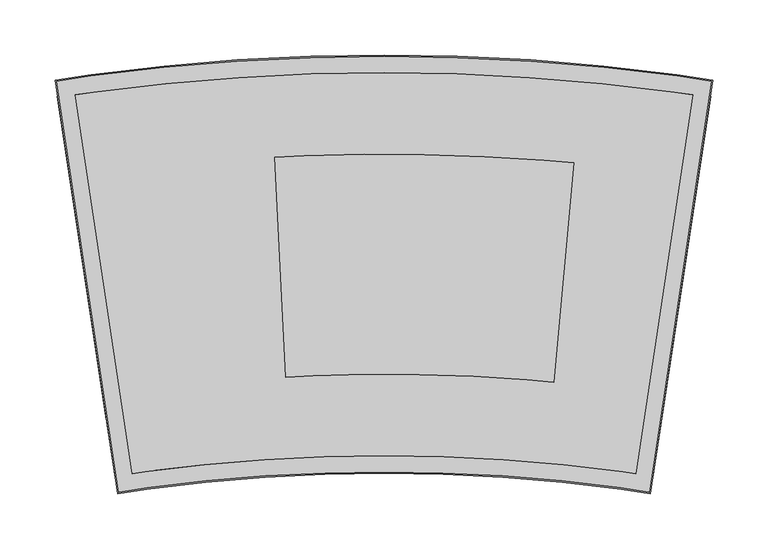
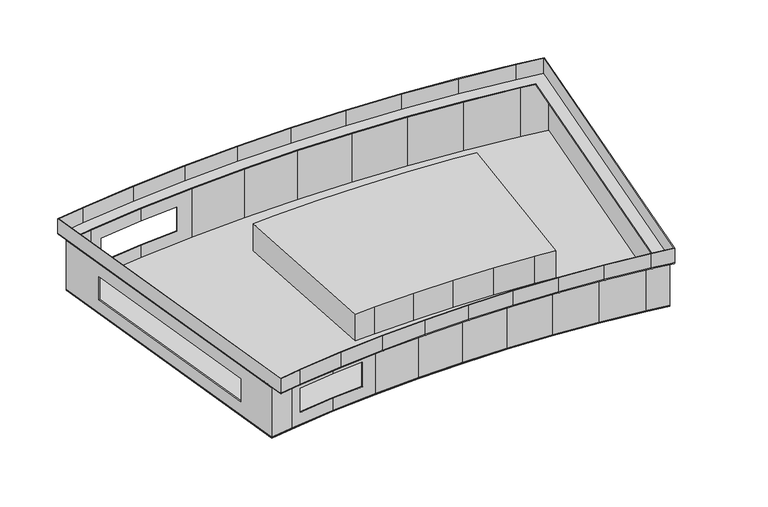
"""IFC4 building model written with IfcOpenShell, lengths in millimetres: proxy geometry, Techno_Конвектор встраиваемый_Usual_KVZ_R-380_85 : KVZ R 380-85_Л."""

from ifc_helpers import new_model, si_unit, frame, origin, place, context, project, spatial, polyline, ellipse_curve, outline, extrude, faceted_brep, source, transform, mapped, element, save
from ifc_brep_helpers import plane_surface, cylinder_surface, advanced_brep


def mechanical_equipment_48334f07(model_context):
    return source(origin(), model_context, "Body", "SolidModel", [
        extrude(outline(polyline([(672.2655921, 92.2156991), (654.2273102, -106.9691909), (629.9730853, -104.7727163), (581.3592075, -101.762964), (532.6793352, -100.1388498), (483.972955, -99.9016912), (435.2795752, -101.0516806), (410.9591343, -102.3197828), (400.5449979, 97.4088976), (427.7099348, 98.8253159), (482.0984468, 100.1098069), (536.5014797, 99.8449105), (590.8749043, 98.0308414), (645.1746157, 94.6690713), (672.2655921, 92.2156991)])), frame((0.0, 0.0, -68.5), z_axis=(0.0, 0.0, 1.0), x_axis=(1.0, 0.0, 0.0)), (0.0, 0.0, 1.0), 35.0),
        extrude(outline(polyline([(796.6645806, 152.9083439), (744.301459, -193.5570418), (717.3582482, -189.4849738), (663.2303399, -183.1412432), (608.9210813, -178.6049662), (554.4908105, -175.8811824), (500.0, -174.9729182), (445.5091895, -175.8811824), (391.0789187, -178.6049662), (336.7696601, -183.1412432), (282.6417518, -189.4849738), (255.698541, -193.5570418), (203.3354194, 152.9083439), (236.053588, 157.8532115), (301.7831718, 165.5566454), (367.7329761, 171.0652197), (433.8297302, 174.3728142), (500.0, 175.4757541), (566.1702698, 174.3728142), (632.2670239, 171.0652197), (698.2168282, 165.5566454), (763.946412, 157.8532115), (796.6645806, 152.9083439)])), frame((0.0, 0.0, -85.0), z_axis=(0.0, 0.0, 1.0), x_axis=(1.0, 0.0, 0.0)), (0.0, 0.0, 1.0), 1.2),
        faceted_brep([(203.3354194, 152.9083439, -20.5), (203.3354194, 152.9083439, -85.0), (255.698541, -193.5570418, -85.0), (255.698541, -193.5570418, -20.5), (211.5844043, 98.3281804, -37.0), (247.7484324, -140.9544204, -37.0), (247.7484324, -140.9544204, -67.0), (211.5844043, 98.3281804, -67.0), (744.301459, -193.5570418, -20.5), (744.301459, -193.5570418, -85.0), (796.6645806, 152.9083439, -85.0), (796.6645806, 152.9083439, -20.5), (204.7012705, 151.9011444, -85.0), (204.7012705, 151.9011444, -20.5), (256.7057406, -192.1911907, -20.5), (256.7057406, -192.1911907, -85.0), (248.9349577, -140.7750947, -37.0), (212.7709296, 98.5075062, -37.0), (212.7709296, 98.5075062, -67.0), (248.9349577, -140.7750947, -67.0), (743.2942594, -192.1911907, -85.0), (743.2942594, -192.1911907, -20.5), (795.2987295, 151.9011444, -20.5), (795.2987295, 151.9011444, -85.0), (282.6417518, -189.4849738, -85.0), (282.6417518, -189.4849738, -20.5), (282.462426, -188.2984485, -20.5), (282.462426, -188.2984485, -85.0), (336.7696601, -183.1412432, -85.0), (336.7696601, -183.1412432, -68.0), (292.6663909, -188.3100972, -68.0), (292.6663909, -188.3100972, -36.0), (336.7696601, -183.1412432, -36.0), (336.7696601, -183.1412432, -20.5), (336.6299775, -181.9494006, -20.5), (336.6299775, -181.9494006, -36.0), (292.5142008, -187.1197205, -36.0), (292.5142008, -187.1197205, -68.0), (336.6299775, -181.9494006, -68.0), (336.6299775, -181.9494006, -85.0), (391.0789187, -178.6049662, -85.0), (391.0789187, -178.6049662, -20.5), (374.9864322, -179.9491196, -36.0), (374.9864322, -179.9491196, -68.0), (390.9790344, -177.4091304, -20.5), (390.9790344, -177.4091304, -85.0), (374.8946678, -178.7526056, -68.0), (374.8946678, -178.7526056, -36.0), (445.5091895, -175.8811824, -85.0), (445.5091895, -175.8811824, -20.5), (445.4492145, -174.6826821, -20.5), (445.4492145, -174.6826821, -85.0), (500.0, -174.9729182, -85.0), (500.0, -174.9729182, -20.5), (499.9800009, -173.7730848, -20.5), (499.9800009, -173.7730848, -85.0), (554.4908105, -175.8811824, -85.0), (554.4908105, -175.8811824, -20.5), (554.5108096, -174.6813491, -20.5), (554.5108096, -174.6813491, -85.0), (608.9210813, -178.6049662, -85.0), (608.9210813, -178.6049662, -20.5), (608.9810563, -177.4064659, -20.5), (608.9810563, -177.4064659, -85.0), (663.2303399, -183.1412432, -85.0), (663.2303399, -183.1412432, -20.5), (663.3302242, -181.9454075, -20.5), (663.3302242, -181.9454075, -85.0), (717.3582482, -189.4849738, -85.0), (717.3582482, -189.4849738, -20.5), (717.4979308, -188.2931312, -20.5), (717.4979308, -188.2931312, -85.0), (763.946412, 157.8532115, -85.0), (763.946412, 157.8532115, -20.5), (763.7670862, 156.6666862, -20.5), (763.7670862, 156.6666862, -85.0), (698.2168282, 165.5566454, -85.0), (698.2168282, 165.5566454, -20.5), (698.0771456, 164.3648028, -20.5), (698.0771456, 164.3648028, -85.0), (632.2670239, 171.0652197, -85.0), (632.2670239, 171.0652197, -20.5), (632.1671396, 169.8693839, -20.5), (632.1671396, 169.8693839, -85.0), (566.1702698, 174.3728142, -85.0), (566.1702698, 174.3728142, -20.5), (566.1102948, 173.1743139, -20.5), (566.1102948, 173.1743139, -85.0), (500.0, 175.4757541, -85.0), (500.0, 175.4757541, -20.5), (499.9800009, 174.2759208, -20.5), (499.9800009, 174.2759208, -85.0), (433.8297302, 174.3728142, -85.0), (433.8297302, 174.3728142, -20.5), (433.8497293, 173.1729808, -20.5), (433.8497293, 173.1729808, -85.0), (367.7329761, 171.0652197, -85.0), (367.7329761, 171.0652197, -20.5), (367.7929511, 169.8667194, -20.5), (367.7929511, 169.8667194, -85.0), (301.7831718, 165.5566454, -85.0), (301.7831718, 165.5566454, -68.0), (348.1912559, 169.4329629, -68.0), (348.1912559, 169.4329629, -36.0), (301.7831718, 165.5566454, -36.0), (301.7831718, 165.5566454, -20.5), (301.8830561, 164.3608097, -20.5), (301.8830561, 164.3608097, -36.0), (348.2830202, 168.2364489, -36.0), (348.2830202, 168.2364489, -68.0), (301.8830561, 164.3608097, -68.0), (301.8830561, 164.3608097, -85.0), (236.053588, 157.8532115, -85.0), (236.053588, 157.8532115, -20.5), (248.2268896, 159.2799088, -36.0), (248.2268896, 159.2799088, -68.0), (236.1932706, 156.6613689, -20.5), (236.1932706, 156.6613689, -85.0), (248.3790797, 158.0895321, -68.0), (248.3790797, 158.0895321, -36.0)], [[[0, 1, 2, 3], [4, 5, 6, 7]], [[8, 9, 10, 11]], [[12, 13, 14, 15], [16, 17, 18, 19]], [[20, 21, 22, 23]], [[3, 2, 24, 25]], [[15, 14, 26, 27]], [[25, 24, 28, 29, 30, 31, 32, 33]], [[27, 26, 34, 35, 36, 37, 38, 39]], [[28, 40, 41, 33, 32, 42, 43, 29]], [[34, 44, 45, 39, 38, 46, 47, 35]], [[41, 40, 48, 49]], [[45, 44, 50, 51]], [[49, 48, 52, 53]], [[51, 50, 54, 55]], [[53, 52, 56, 57]], [[55, 54, 58, 59]], [[57, 56, 60, 61]], [[59, 58, 62, 63]], [[61, 60, 64, 65]], [[63, 62, 66, 67]], [[65, 64, 68, 69]], [[67, 66, 70, 71]], [[9, 8, 69, 68]], [[21, 20, 71, 70]], [[11, 10, 72, 73]], [[23, 22, 74, 75]], [[73, 72, 76, 77]], [[75, 74, 78, 79]], [[77, 76, 80, 81]], [[79, 78, 82, 83]], [[81, 80, 84, 85]], [[83, 82, 86, 87]], [[85, 84, 88, 89]], [[87, 86, 90, 91]], [[89, 88, 92, 93]], [[91, 90, 94, 95]], [[93, 92, 96, 97]], [[95, 94, 98, 99]], [[97, 96, 100, 101, 102, 103, 104, 105]], [[99, 98, 106, 107, 108, 109, 110, 111]], [[100, 112, 113, 105, 104, 114, 115, 101]], [[106, 116, 117, 111, 110, 118, 119, 107]], [[1, 0, 113, 112]], [[13, 12, 117, 116]], [[0, 3, 25, 33, 41, 49, 53, 57, 61, 65, 69, 8, 11, 73, 77, 81, 85, 89, 93, 97, 105, 113], [14, 13, 116, 106, 98, 94, 90, 86, 82, 78, 74, 22, 21, 70, 66, 62, 58, 54, 50, 44, 34, 26]], [[2, 1, 112, 100, 96, 92, 88, 84, 80, 76, 72, 10, 9, 68, 64, 60, 56, 52, 48, 40, 28, 24], [12, 15, 27, 39, 45, 51, 55, 59, 63, 67, 71, 20, 23, 75, 79, 83, 87, 91, 95, 99, 111, 117]], [[4, 17, 16, 5]], [[6, 19, 18, 7]], [[19, 6, 5, 16]], [[17, 4, 7, 18]], [[42, 47, 46, 43]], [[108, 103, 102, 109]], [[43, 46, 38, 37, 30, 29]], [[109, 102, 101, 115, 118, 110]], [[47, 42, 32, 31, 36, 35]], [[103, 108, 107, 119, 114, 104]], [[30, 37, 36, 31]], [[118, 115, 114, 119]]]),
        advanced_brep(
        [(780.6649176, 154.1128287, -19.3), (780.6649176, 154.1128287, -20.5), (728.6604475, -189.9795064, -20.5), (728.6604475, -189.9795064, -19.3), (797.5104139, 166.5349563, 0.0), (797.5104139, 166.5349563, -19.3), (741.0825751, -206.8250027, -19.3), (741.0825751, -206.8250027, 0.0), (798.8762649, 167.5421559, -18.5), (798.8762649, 167.5421559, 0.0), (742.0897746, -208.1908537, 0.0), (742.0897746, -208.1908537, -18.5), (271.3395525, -189.9795064, -19.3), (271.3395525, -189.9795064, -20.5), (219.3350824, 154.1128287, -20.5), (219.3350824, 154.1128287, -19.3), (258.9174249, -206.8250027, 0.0), (258.9174249, -206.8250027, -19.3), (202.4895861, 166.5349563, -19.3), (202.4895861, 166.5349563, 0.0), (257.9102254, -208.1908537, -18.5), (257.9102254, -208.1908537, 0.0), (201.1237351, 167.5421559, 0.0), (201.1237351, 167.5421559, -18.5), (796.5998465, 165.86349, -20.5), (740.4111087, -205.9144353, -20.5), (259.5888913, -205.9144353, -20.5), (203.4001535, 165.86349, -20.5), (234.0858231, 172.5238882, -18.5), (234.3517373, 170.5413643, -20.5), (236.2131365, 156.6636971, -20.5), (236.2131365, 156.6636971, -19.3), (234.2453716, 171.3343739, -19.3), (234.2453716, 171.3343739, 0.0), (234.0858231, 172.5238882, 0.0), (300.305432, 180.2847526, -18.5), (300.5051266, 178.2944678, -20.5), (301.9029885, 164.3624746, -20.5), (301.9029885, 164.3624746, -19.3), (300.4252487, 179.0905817, -19.3), (300.4252487, 179.0905817, 0.0), (300.305432, 180.2847526, 0.0), (715.3904833, -204.1556505, -18.5), (715.6563975, -202.1731266, -20.5), (717.5177967, -188.2954594, -20.5), (717.5177967, -188.2954594, -19.3), (715.5500318, -202.9661362, -19.3), (715.5500318, -202.9661362, 0.0), (715.3904833, -204.1556505, 0.0), (661.7526001, -197.8693504, -18.5), (661.9522947, -195.8790656, -20.5), (663.3501566, -181.9470724, -20.5), (663.3501566, -181.9470724, -19.3), (661.8724168, -196.6751795, -19.3), (661.8724168, -196.6751795, 0.0), (661.7526001, -197.8693504, 0.0), (366.7469032, 185.8343942, -18.5), (366.8801563, 183.8385598, -20.5), (367.812928, 169.8677191, -20.5), (367.812928, 169.8677191, -19.3), (366.8268551, 184.6368936, -19.3), (366.8268551, 184.6368936, 0.0), (366.7469032, 185.8343942, 0.0), (607.9350084, -193.3741407, -18.5), (608.0682615, -191.3783063, -20.5), (609.0010332, -177.4074655, -20.5), (609.0010332, -177.4074655, -19.3), (608.0149603, -192.1766401, -19.3), (608.0149603, -192.1766401, 0.0), (607.9350084, -193.3741407, 0.0), (433.3364197, 189.1666474, -18.5), (433.4030833, 187.1674807, -20.5), (433.8697284, 173.1733142, -20.5), (433.8697284, 173.1733142, -19.3), (433.3764179, 187.9671474, -19.3), (433.3764179, 187.9671474, 0.0), (433.3364197, 189.1666474, 0.0), (500.0, 190.2778099, -18.5), (500.0, 188.2775321, -20.5), (500.0, 174.2755875, -20.5), (500.0, 174.2755875, -19.3), (500.0, 189.0776432, -19.3), (500.0, 189.0776432, 0.0), (500.0, 190.2778099, 0.0), (553.9975, -190.6750156, -18.5), (554.0641636, -188.675849, -20.5), (554.5308087, -174.6816824, -20.5), (554.5308087, -174.6816824, -19.3), (554.0374982, -189.4755156, -19.3), (554.0374982, -189.4755156, 0.0), (553.9975, -190.6750156, 0.0), (500.0, -189.774974, -18.5), (500.0, -187.7746961, -20.5), (500.0, -173.7727515, -20.5), (500.0, -173.7727515, -19.3), (500.0, -188.5748073, -19.3), (500.0, -188.5748073, 0.0), (500.0, -189.774974, 0.0), (566.6635803, 189.1666474, -18.5), (566.5969167, 187.1674807, -20.5), (566.1302716, 173.1733142, -20.5), (566.1302716, 173.1733142, -19.3), (566.6235821, 187.9671474, -19.3), (566.6235821, 187.9671474, 0.0), (566.6635803, 189.1666474, 0.0), (633.2530968, 185.8343942, -18.5), (633.1198437, 183.8385598, -20.5), (632.187072, 169.8677191, -20.5), (632.187072, 169.8677191, -19.3), (633.1731449, 184.6368936, -19.3), (633.1731449, 184.6368936, 0.0), (633.2530968, 185.8343942, 0.0), (699.694568, 180.2847526, -18.5), (699.4948734, 178.2944678, -20.5), (698.0970115, 164.3624746, -20.5), (698.0970115, 164.3624746, -19.3), (699.5747513, 179.0905817, -19.3), (699.5747513, 179.0905817, 0.0), (699.694568, 180.2847526, 0.0), (765.9141769, 172.5238882, -18.5), (765.6482627, 170.5413643, -20.5), (763.7868635, 156.6636971, -20.5), (763.7868635, 156.6636971, -19.3), (765.7546284, 171.3343739, -19.3), (765.7546284, 171.3343739, 0.0), (765.9141769, 172.5238882, 0.0), (446.0025, -190.6750156, -18.5), (445.9358364, -188.675849, -20.5), (445.4691913, -174.6816824, -20.5), (445.4691913, -174.6816824, -19.3), (445.9625018, -189.4755156, -19.3), (445.9625018, -189.4755156, 0.0), (446.0025, -190.6750156, 0.0), (392.0649916, -193.3741407, -18.5), (391.9317385, -191.3783063, -20.5), (390.9989668, -177.4074655, -20.5), (390.9989668, -177.4074655, -19.3), (391.9850397, -192.1766401, -19.3), (391.9850397, -192.1766401, 0.0), (392.0649916, -193.3741407, 0.0), (338.2473999, -197.8693504, -18.5), (338.0477053, -195.8790656, -20.5), (336.6498434, -181.9470724, -20.5), (336.6498434, -181.9470724, -19.3), (338.1275832, -196.6751795, -19.3), (338.1275832, -196.6751795, 0.0), (338.2473999, -197.8693504, 0.0), (284.6095167, -204.1556505, -18.5), (284.3436025, -202.1731266, -20.5), (282.4822033, -188.2954594, -20.5), (282.4822033, -188.2954594, -19.3), (284.4499682, -202.9661362, -19.3), (284.4499682, -202.9661362, 0.0), (284.6095167, -204.1556505, 0.0)],
        [
            (0, 1),
            (1, 2),
            (2, 3),
            (3, 0),
            (4, 5),
            (5, 6),
            (6, 7),
            (7, 4),
            (8, 9),
            (9, 10),
            (10, 11),
            (11, 8),
            (12, 13),
            (13, 14),
            (14, 15),
            (15, 12),
            (16, 17),
            (17, 18),
            (18, 19),
            (19, 16),
            (20, 21),
            (21, 22),
            (22, 23),
            (23, 20),
            (24, 8, ellipse_curve(frame((796.5998465, 165.86349, -18.5), z_axis=(0.593498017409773, -0.8048354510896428, 0.0), x_axis=(0.8048354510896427, 0.5934980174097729, 0.0)), 2.8284271, 2.0)),
            (11, 25, ellipse_curve(frame((740.4111087, -205.9144353, -18.5), z_axis=(0.8048354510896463, 0.5934980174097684, 0.0), x_axis=(-0.5934980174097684, 0.8048354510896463, 0.0)), 2.8284271, 2.0)),
            (25, 24),
            (26, 20, ellipse_curve(frame((259.5888913, -205.9144353, -18.5), z_axis=(-0.804835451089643, 0.5934980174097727, 0.0), x_axis=(-0.5934980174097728, -0.8048354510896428, 0.0)), 2.8284271, 2.0)),
            (23, 27, ellipse_curve(frame((203.4001535, 165.86349, -18.5), z_axis=(-0.5934980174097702, -0.8048354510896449, 0.0), x_axis=(0.8048354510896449, -0.5934980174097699, 0.0)), 2.8284271, 2.0)),
            (27, 26),
            (23, 28),
            (28, 29, ellipse_curve(frame((234.3517373, 170.5413643, -18.5), z_axis=(-0.9911242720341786, -0.13293862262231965, 0.0), x_axis=(0.13293862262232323, -0.991124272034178, 0.0)), 2.0002778, 2.0)),
            (29, 27),
            (14, 30),
            (30, 31),
            (31, 15),
            (18, 32),
            (32, 33),
            (33, 19),
            (22, 34),
            (34, 28),
            (28, 35),
            (35, 36, ellipse_curve(frame((300.5051266, 178.2944678, -18.5), z_axis=(-0.9950041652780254, -0.09983341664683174, 0.0), x_axis=(0.09983341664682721, -0.9950041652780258, 0.0)), 2.0002778, 2.0)),
            (36, 29),
            (30, 37),
            (37, 38),
            (38, 31),
            (32, 39),
            (39, 40),
            (40, 33),
            (34, 41),
            (41, 35),
            (11, 42),
            (42, 43, ellipse_curve(frame((715.6563975, -202.1731266, -18.5), z_axis=(0.991124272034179, -0.1329386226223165, 0.0), x_axis=(-0.13293862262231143, -0.9911242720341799, 0.0)), 2.0002778, 2.0)),
            (43, 25),
            (2, 44),
            (44, 45),
            (45, 3),
            (6, 46),
            (46, 47),
            (47, 7),
            (10, 48),
            (48, 42),
            (42, 49),
            (49, 50, ellipse_curve(frame((661.9522947, -195.8790656, -18.5), z_axis=(0.9950041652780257, -0.09983341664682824, 0.0), x_axis=(-0.09983341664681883, -0.9950041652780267, 0.0)), 2.0002778, 2.0)),
            (50, 43),
            (44, 51),
            (51, 52),
            (52, 45),
            (46, 53),
            (53, 54),
            (54, 47),
            (48, 55),
            (55, 49),
            (35, 56),
            (56, 57, ellipse_curve(frame((366.8801563, 183.8385598, -18.5), z_axis=(-0.9977786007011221, -0.0666172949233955, 0.0), x_axis=(0.06661729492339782, -0.9977786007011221, 0.0)), 2.0002778, 2.0)),
            (57, 36),
            (37, 58),
            (58, 59),
            (59, 38),
            (39, 60),
            (60, 61),
            (61, 40),
            (41, 62),
            (62, 56),
            (49, 63),
            (63, 64, ellipse_curve(frame((608.0682615, -191.3783063, -18.5), z_axis=(0.9977786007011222, -0.06661729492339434, 0.0), x_axis=(-0.06661729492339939, -0.9977786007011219, 0.0)), 2.0002778, 2.0)),
            (64, 50),
            (51, 65),
            (65, 66),
            (66, 52),
            (53, 67),
            (67, 68),
            (68, 54),
            (55, 69),
            (69, 63),
            (56, 70),
            (70, 71, ellipse_curve(frame((433.4030833, 187.1674807, -18.5), z_axis=(-0.9994444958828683, -0.03332716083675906, 0.0), x_axis=(0.03332716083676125, -0.9994444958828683, 0.0)), 2.0002778, 2.0)),
            (71, 57),
            (58, 72),
            (72, 73),
            (73, 59),
            (60, 74),
            (74, 75),
            (75, 61),
            (62, 76),
            (76, 70),
            (70, 77),
            (77, 78, ellipse_curve(frame((500.0, 188.2775321, -18.5), z_axis=(-1.0, 0.0, 0.0), x_axis=(0.0, -1.0, 0.0)), 2.0002778, 2.0)),
            (78, 71),
            (72, 79),
            (79, 80),
            (80, 73),
            (74, 81),
            (81, 82),
            (82, 75),
            (76, 83),
            (83, 77),
            (63, 84),
            (84, 85, ellipse_curve(frame((554.0641636, -188.675849, -18.5), z_axis=(0.9994444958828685, -0.03332716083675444, 0.0), x_axis=(-0.033327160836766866, -0.9994444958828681, 0.0)), 2.0002778, 2.0)),
            (85, 64),
            (65, 86),
            (86, 87),
            (87, 66),
            (67, 88),
            (88, 89),
            (89, 68),
            (69, 90),
            (90, 84),
            (84, 91),
            (91, 92, ellipse_curve(frame((500.0, -187.7746961, -18.5), z_axis=(1.0, 0.0, 0.0), x_axis=(0.0, -1.0, 0.0)), 2.0002778, 2.0)),
            (92, 85),
            (86, 93),
            (93, 94),
            (94, 87),
            (88, 95),
            (95, 96),
            (96, 89),
            (90, 97),
            (97, 91),
            (77, 98),
            (98, 99, ellipse_curve(frame((566.5969167, 187.1674807, -18.5), z_axis=(-0.9994444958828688, 0.033327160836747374, 0.0), x_axis=(-0.03332716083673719, -0.9994444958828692, 0.0)), 2.0002778, 2.0)),
            (99, 78),
            (79, 100),
            (100, 101),
            (101, 80),
            (81, 102),
            (102, 103),
            (103, 82),
            (83, 104),
            (104, 98),
            (98, 105),
            (105, 106, ellipse_curve(frame((633.1198437, 183.8385598, -18.5), z_axis=(-0.9977786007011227, 0.06661729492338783, 0.0), x_axis=(-0.06661729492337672, -0.9977786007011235, 0.0)), 2.0002778, 2.0)),
            (106, 99),
            (100, 107),
            (107, 108),
            (108, 101),
            (102, 109),
            (109, 110),
            (110, 103),
            (104, 111),
            (111, 105),
            (105, 112),
            (112, 113, ellipse_curve(frame((699.4948734, 178.2944678, -18.5), z_axis=(-0.9950041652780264, 0.0998334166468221, 0.0), x_axis=(-0.09983341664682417, -0.9950041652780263, 0.0)), 2.0002778, 2.0)),
            (113, 106),
            (107, 114),
            (114, 115),
            (115, 108),
            (109, 116),
            (116, 117),
            (117, 110),
            (111, 118),
            (118, 112),
            (112, 119),
            (119, 120, ellipse_curve(frame((765.6482627, 170.5413643, -18.5), z_axis=(-0.9911242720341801, 0.1329386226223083, 0.0), x_axis=(-0.13293862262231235, -0.9911242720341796, 0.0)), 2.0002778, 2.0)),
            (120, 113),
            (114, 121),
            (121, 122),
            (122, 115),
            (116, 123),
            (123, 124),
            (124, 117),
            (118, 125),
            (125, 119),
            (119, 8),
            (24, 120),
            (121, 1),
            (0, 122),
            (123, 5),
            (4, 124),
            (125, 9),
            (91, 126),
            (126, 127, ellipse_curve(frame((445.9358364, -188.675849, -18.5), z_axis=(0.9994444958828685, 0.033327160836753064, 0.0), x_axis=(0.03332716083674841, -0.9994444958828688, 0.0)), 2.0002778, 2.0)),
            (127, 92),
            (93, 128),
            (128, 129),
            (129, 94),
            (95, 130),
            (130, 131),
            (131, 96),
            (97, 132),
            (132, 126),
            (126, 133),
            (133, 134, ellipse_curve(frame((391.9317385, -191.3783063, -18.5), z_axis=(0.9977786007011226, 0.06661729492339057, 0.0), x_axis=(0.06661729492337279, -0.9977786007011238, 0.0)), 2.0002778, 2.0)),
            (134, 127),
            (128, 135),
            (135, 136),
            (136, 129),
            (130, 137),
            (137, 138),
            (138, 131),
            (132, 139),
            (139, 133),
            (133, 140),
            (140, 141, ellipse_curve(frame((338.0477053, -195.8790656, -18.5), z_axis=(0.9950041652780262, 0.09983341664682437, 0.0), x_axis=(0.09983341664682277, -0.9950041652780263, 0.0)), 2.0002778, 2.0)),
            (141, 134),
            (135, 142),
            (142, 143),
            (143, 136),
            (137, 144),
            (144, 145),
            (145, 138),
            (139, 146),
            (146, 140),
            (140, 147),
            (147, 148, ellipse_curve(frame((284.3436025, -202.1731266, -18.5), z_axis=(0.9911242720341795, 0.1329386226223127, 0.0), x_axis=(0.13293862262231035, -0.99112427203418, 0.0)), 2.0002778, 2.0)),
            (148, 141),
            (142, 149),
            (149, 150),
            (150, 143),
            (144, 151),
            (151, 152),
            (152, 145),
            (146, 153),
            (153, 147),
            (147, 20),
            (26, 148),
            (13, 149),
            (12, 150),
            (17, 151),
            (16, 152),
            (21, 153),
        ],
        [
            plane_surface(frame((780.6649176, 154.1128287, -20.5), z_axis=(-0.9887710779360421, 0.1494381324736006, 0.0), x_axis=(-0.1494381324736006, -0.9887710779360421, 0.0))),
            plane_surface(frame((797.5104139, 166.5349563, -19.3), z_axis=(-0.9887710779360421, 0.14943813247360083, 0.0), x_axis=(-0.14943813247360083, -0.9887710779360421, 0.0))),
            plane_surface(frame((798.8762649, 167.5421559, 0.0), z_axis=(0.9887710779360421, -0.1494381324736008, 0.0), x_axis=(-0.1494381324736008, -0.9887710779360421, 0.0))),
            plane_surface(frame((271.3395525, -189.9795064, -20.5), z_axis=(0.9887710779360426, 0.14943813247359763, 0.0), x_axis=(-0.14943813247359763, 0.9887710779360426, 0.0))),
            plane_surface(frame((258.9174249, -206.8250027, -19.3), z_axis=(0.9887710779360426, 0.14943813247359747, 0.0), x_axis=(-0.14943813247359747, 0.9887710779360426, 0.0))),
            plane_surface(frame((257.9102254, -208.1908537, 0.0), z_axis=(-0.9887710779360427, -0.14943813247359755, 0.0), x_axis=(-0.14943813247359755, 0.9887710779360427, 0.0))),
            cylinder_surface(frame((796.8987228, 167.8410321, -18.5), z_axis=(0.14943813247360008, 0.9887710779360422, 0.0), x_axis=(0.9887710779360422, -0.14943813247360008, 0.0)), 2.0),
            cylinder_surface(frame((259.8877675, -207.8919775, -18.5), z_axis=(0.1494381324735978, -0.9887710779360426, 0.0), x_axis=(-0.9887710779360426, -0.1494381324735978, 0.0)), 2.0),
            cylinder_surface(frame((201.4226113, 165.5646137, -18.5), z_axis=(-0.9887710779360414, -0.1494381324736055, 0.0), x_axis=(-0.1494381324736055, 0.9887710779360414, 0.0)), 2.0),
            plane_surface(frame((219.3350824, 154.1128287, -20.5), z_axis=(0.14943813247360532, -0.9887710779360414, 0.0), x_axis=(0.9887710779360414, 0.14943813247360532, 0.0))),
            plane_surface(frame((202.4895861, 166.5349563, -19.3), z_axis=(0.14943813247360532, -0.9887710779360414, 0.0), x_axis=(0.9887710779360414, 0.14943813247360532, 0.0))),
            plane_surface(frame((201.1237351, 167.5421559, 0.0), z_axis=(-0.1494381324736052, 0.9887710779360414, 0.0), x_axis=(0.9887710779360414, 0.1494381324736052, 0.0))),
            cylinder_surface(frame((234.3186275, 170.5374839, -18.5), z_axis=(-0.9932021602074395, -0.11640218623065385, 0.0), x_axis=(-0.11640218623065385, 0.9932021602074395, 0.0)), 2.0),
            plane_surface(frame((236.2131365, 156.6636971, -20.5), z_axis=(0.1164021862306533, -0.9932021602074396, 0.0), x_axis=(0.9932021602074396, 0.1164021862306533, 0.0))),
            plane_surface(frame((234.2453716, 171.3343739, -19.3), z_axis=(0.11640218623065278, -0.9932021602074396, 0.0), x_axis=(0.9932021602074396, 0.11640218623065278, 0.0))),
            plane_surface(frame((234.0858231, 172.5238882, 0.0), z_axis=(-0.11640218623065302, 0.9932021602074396, 0.0), x_axis=(0.9932021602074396, 0.11640218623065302, 0.0))),
            cylinder_surface(frame((742.3886509, -206.2133116, -18.5), z_axis=(0.988771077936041, -0.14943813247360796, 0.0), x_axis=(-0.14943813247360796, -0.988771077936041, 0.0)), 2.0),
            plane_surface(frame((728.6604475, -189.9795064, -20.5), z_axis=(0.14943813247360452, 0.9887710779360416, 0.0), x_axis=(-0.9887710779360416, 0.14943813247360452, 0.0))),
            plane_surface(frame((741.0825751, -206.8250027, -19.3), z_axis=(0.14943813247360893, 0.9887710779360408, 0.0), x_axis=(-0.9887710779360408, 0.14943813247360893, 0.0))),
            plane_surface(frame((742.0897746, -208.1908537, 0.0), z_axis=(-0.1494381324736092, -0.9887710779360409, 0.0), x_axis=(-0.9887710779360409, 0.1494381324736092, 0.0))),
            cylinder_surface(frame((715.6232877, -202.1692462, -18.5), z_axis=(0.9932021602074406, -0.11640218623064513, 0.0), x_axis=(-0.11640218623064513, -0.9932021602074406, 0.0)), 2.0),
            plane_surface(frame((717.5177967, -188.2954594, -20.5), z_axis=(0.11640218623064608, 0.9932021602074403, 0.0), x_axis=(-0.9932021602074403, 0.11640218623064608, 0.0))),
            plane_surface(frame((715.5500318, -202.9661362, -19.3), z_axis=(0.11640218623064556, 0.9932021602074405, 0.0), x_axis=(-0.9932021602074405, 0.11640218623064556, 0.0))),
            plane_surface(frame((715.3904833, -204.1556505, 0.0), z_axis=(-0.11640218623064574, -0.9932021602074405, 0.0), x_axis=(-0.9932021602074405, 0.11640218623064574, 0.0))),
            cylinder_surface(frame((300.4719058, 178.291693, -18.5), z_axis=(-0.9965297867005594, -0.08323691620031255, 0.0), x_axis=(-0.08323691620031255, 0.9965297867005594, 0.0)), 2.0),
            plane_surface(frame((301.9029885, 164.3624746, -20.5), z_axis=(0.08323691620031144, -0.9965297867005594, 0.0), x_axis=(0.9965297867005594, 0.08323691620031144, 0.0))),
            plane_surface(frame((300.4252487, 179.0905817, -19.3), z_axis=(0.08323691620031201, -0.9965297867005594, 0.0), x_axis=(0.9965297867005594, 0.08323691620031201, 0.0))),
            plane_surface(frame((300.305432, 180.2847526, 0.0), z_axis=(-0.08323691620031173, 0.9965297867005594, 0.0), x_axis=(0.9965297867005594, 0.08323691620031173, 0.0))),
            cylinder_surface(frame((661.9190739, -195.8762908, -18.5), z_axis=(0.9965297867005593, -0.08323691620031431, 0.0), x_axis=(-0.08323691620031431, -0.9965297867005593, 0.0)), 2.0),
            plane_surface(frame((663.3501566, -181.9470724, -20.5), z_axis=(0.08323691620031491, 0.9965297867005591, 0.0), x_axis=(-0.9965297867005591, 0.08323691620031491, 0.0))),
            plane_surface(frame((661.8724168, -196.6751795, -19.3), z_axis=(0.08323691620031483, 0.9965297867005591, 0.0), x_axis=(-0.9965297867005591, 0.08323691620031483, 0.0))),
            plane_surface(frame((661.7526001, -197.8693504, 0.0), z_axis=(-0.08323691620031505, -0.9965297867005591, 0.0), x_axis=(-0.9965297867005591, 0.08323691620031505, 0.0))),
            cylinder_surface(frame((366.8468615, 183.8368937, -18.5), z_axis=(-0.9987502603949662, -0.04997916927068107, 0.0), x_axis=(-0.04997916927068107, 0.9987502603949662, 0.0)), 2.0),
            plane_surface(frame((367.812928, 169.8677191, -20.5), z_axis=(0.04997916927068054, -0.9987502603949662, 0.0), x_axis=(0.9987502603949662, 0.04997916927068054, 0.0))),
            plane_surface(frame((366.8268551, 184.6368936, -19.3), z_axis=(0.049979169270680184, -0.9987502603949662, 0.0), x_axis=(0.9987502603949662, 0.049979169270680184, 0.0))),
            plane_surface(frame((366.7469032, 185.8343942, 0.0), z_axis=(-0.049979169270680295, 0.9987502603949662, 0.0), x_axis=(0.9987502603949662, 0.049979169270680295, 0.0))),
            cylinder_surface(frame((433.3697515, 187.1669251, -18.5), z_axis=(-0.9998611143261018, -0.01666589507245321, 0.0), x_axis=(-0.01666589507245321, 0.9998611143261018, 0.0)), 2.0),
            plane_surface(frame((433.8697284, 173.1733142, -20.5), z_axis=(0.01666589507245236, -0.9998611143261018, 0.0), x_axis=(0.9998611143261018, 0.01666589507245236, 0.0))),
            plane_surface(frame((433.3764179, 187.9671474, -19.3), z_axis=(0.01666589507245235, -0.9998611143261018, 0.0), x_axis=(0.9998611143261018, 0.01666589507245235, 0.0))),
            plane_surface(frame((433.3364197, 189.1666474, 0.0), z_axis=(-0.016665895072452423, 0.9998611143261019, 0.0), x_axis=(0.9998611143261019, 0.016665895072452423, 0.0))),
            cylinder_surface(frame((608.0349667, -191.3766402, -18.5), z_axis=(0.9987502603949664, -0.04997916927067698, 0.0), x_axis=(-0.04997916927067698, -0.9987502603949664, 0.0)), 2.0),
            plane_surface(frame((609.0010332, -177.4074655, -20.5), z_axis=(0.049979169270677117, 0.9987502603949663, 0.0), x_axis=(-0.9987502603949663, 0.049979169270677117, 0.0))),
            plane_surface(frame((608.0149603, -192.1766401, -19.3), z_axis=(0.04997916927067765, 0.9987502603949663, 0.0), x_axis=(-0.9987502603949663, 0.04997916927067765, 0.0))),
            plane_surface(frame((607.9350084, -193.3741407, 0.0), z_axis=(-0.049979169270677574, -0.9987502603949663, 0.0), x_axis=(-0.9987502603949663, 0.049979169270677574, 0.0))),
            cylinder_surface(frame((554.0308318, -188.6752934, -18.5), z_axis=(0.9998611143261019, -0.016665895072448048, 0.0), x_axis=(-0.016665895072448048, -0.9998611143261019, 0.0)), 2.0),
            plane_surface(frame((554.5308087, -174.6816824, -20.5), z_axis=(0.016665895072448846, 0.9998611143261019, 0.0), x_axis=(-0.9998611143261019, 0.016665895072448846, 0.0))),
            plane_surface(frame((554.0374982, -189.4755156, -19.3), z_axis=(0.016665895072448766, 0.9998611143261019, 0.0), x_axis=(-0.9998611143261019, 0.016665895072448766, 0.0))),
            plane_surface(frame((553.9975, -190.6750156, 0.0), z_axis=(-0.016665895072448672, -0.9998611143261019, 0.0), x_axis=(-0.9998611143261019, 0.016665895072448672, 0.0))),
            cylinder_surface(frame((499.9666682, 188.2780877, -18.5), z_axis=(-0.999861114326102, 0.01666589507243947, 0.0), x_axis=(0.01666589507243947, 0.999861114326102, 0.0)), 2.0),
            plane_surface(frame((500.0, 174.2755875, -20.5), z_axis=(-0.01666589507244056, -0.9998611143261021, 0.0), x_axis=(0.9998611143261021, -0.01666589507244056, 0.0))),
            plane_surface(frame((500.0, 189.0776432, -19.3), z_axis=(-0.016665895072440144, -0.999861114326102, 0.0), x_axis=(0.999861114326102, -0.016665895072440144, 0.0))),
            plane_surface(frame((500.0, 190.2778099, 0.0), z_axis=(0.016665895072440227, 0.999861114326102, 0.0), x_axis=(0.999861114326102, -0.016665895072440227, 0.0))),
            cylinder_surface(frame((566.563622, 187.1691469, -18.5), z_axis=(-0.9987502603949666, 0.04997916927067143, 0.0), x_axis=(0.04997916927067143, 0.9987502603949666, 0.0)), 2.0),
            plane_surface(frame((566.1302716, 173.1733142, -20.5), z_axis=(-0.049979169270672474, -0.9987502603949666, 0.0), x_axis=(0.9987502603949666, -0.049979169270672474, 0.0))),
            plane_surface(frame((566.6235821, 187.9671474, -19.3), z_axis=(-0.04997916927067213, -0.9987502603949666, 0.0), x_axis=(0.9987502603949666, -0.04997916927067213, 0.0))),
            plane_surface(frame((566.6635803, 189.1666474, 0.0), z_axis=(0.04997916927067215, 0.9987502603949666, 0.0), x_axis=(0.9987502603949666, -0.04997916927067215, 0.0))),
            cylinder_surface(frame((633.086623, 183.8413346, -18.5), z_axis=(-0.9965297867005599, 0.08323691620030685, 0.0), x_axis=(0.08323691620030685, 0.9965297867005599, 0.0)), 2.0),
            plane_surface(frame((632.187072, 169.8677191, -20.5), z_axis=(-0.08323691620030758, -0.9965297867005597, 0.0), x_axis=(0.9965297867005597, -0.08323691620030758, 0.0))),
            plane_surface(frame((633.1731449, 184.6368936, -19.3), z_axis=(-0.08323691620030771, -0.9965297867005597, 0.0), x_axis=(0.9965297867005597, -0.08323691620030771, 0.0))),
            plane_surface(frame((633.2530968, 185.8343942, 0.0), z_axis=(0.08323691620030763, 0.9965297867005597, 0.0), x_axis=(0.9965297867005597, -0.08323691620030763, 0.0))),
            cylinder_surface(frame((699.4617636, 178.2983483, -18.5), z_axis=(-0.993202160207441, 0.11640218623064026, 0.0), x_axis=(0.11640218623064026, 0.993202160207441, 0.0)), 2.0),
            plane_surface(frame((698.0970115, 164.3624746, -20.5), z_axis=(-0.11640218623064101, -0.993202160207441, 0.0), x_axis=(0.993202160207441, -0.11640218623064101, 0.0))),
            plane_surface(frame((699.5747513, 179.0905817, -19.3), z_axis=(-0.11640218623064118, -0.9932021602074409, 0.0), x_axis=(0.9932021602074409, -0.11640218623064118, 0.0))),
            plane_surface(frame((699.694568, 180.2847526, 0.0), z_axis=(0.11640218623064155, 0.9932021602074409, 0.0), x_axis=(0.9932021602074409, -0.11640218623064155, 0.0))),
            cylinder_surface(frame((765.6153006, 170.5463461, -18.5), z_axis=(-0.9887710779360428, 0.14943813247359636, 0.0), x_axis=(0.14943813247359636, 0.9887710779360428, 0.0)), 2.0),
            plane_surface(frame((763.7868635, 156.6636971, -20.5), z_axis=(-0.1494381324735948, -0.988771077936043, 0.0), x_axis=(0.988771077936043, -0.1494381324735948, 0.0))),
            plane_surface(frame((765.7546284, 171.3343739, -19.3), z_axis=(-0.14943813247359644, -0.9887710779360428, 0.0), x_axis=(0.9887710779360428, -0.14943813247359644, 0.0))),
            plane_surface(frame((765.9141769, 172.5238882, 0.0), z_axis=(0.1494381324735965, 0.9887710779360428, 0.0), x_axis=(0.9887710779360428, -0.1494381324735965, 0.0))),
            cylinder_surface(frame((499.9666682, -187.7752517, -18.5), z_axis=(0.9998611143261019, 0.01666589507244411, 0.0), x_axis=(0.01666589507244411, -0.9998611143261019, 0.0)), 2.0),
            plane_surface(frame((500.0, -173.7727515, -20.5), z_axis=(-0.016665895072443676, 0.9998611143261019, 0.0), x_axis=(-0.9998611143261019, -0.016665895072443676, 0.0))),
            plane_surface(frame((500.0, -188.5748073, -19.3), z_axis=(-0.016665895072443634, 0.999861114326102, 0.0), x_axis=(-0.999861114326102, -0.016665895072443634, 0.0))),
            plane_surface(frame((500.0, -189.774974, 0.0), z_axis=(0.016665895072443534, -0.9998611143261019, 0.0), x_axis=(-0.9998611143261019, -0.016665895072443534, 0.0))),
            cylinder_surface(frame((445.9025416, -188.6775151, -18.5), z_axis=(0.9987502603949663, 0.04997916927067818, 0.0), x_axis=(0.04997916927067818, -0.9987502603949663, 0.0)), 2.0),
            plane_surface(frame((445.4691913, -174.6816824, -20.5), z_axis=(-0.04997916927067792, 0.9987502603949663, 0.0), x_axis=(-0.9987502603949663, -0.04997916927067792, 0.0))),
            plane_surface(frame((445.9625018, -189.4755156, -19.3), z_axis=(-0.04997916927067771, 0.9987502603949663, 0.0), x_axis=(-0.9987502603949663, -0.04997916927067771, 0.0))),
            plane_surface(frame((446.0025, -190.6750156, 0.0), z_axis=(0.049979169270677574, -0.9987502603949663, 0.0), x_axis=(-0.9987502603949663, -0.049979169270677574, 0.0))),
            cylinder_surface(frame((391.8985178, -191.3810811, -18.5), z_axis=(0.9965297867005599, 0.08323691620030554, 0.0), x_axis=(0.08323691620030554, -0.9965297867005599, 0.0)), 2.0),
            plane_surface(frame((390.9989668, -177.4074655, -20.5), z_axis=(-0.08323691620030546, 0.9965297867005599, 0.0), x_axis=(-0.9965297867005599, -0.08323691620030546, 0.0))),
            plane_surface(frame((391.9850397, -192.1766401, -19.3), z_axis=(-0.08323691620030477, 0.9965297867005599, 0.0), x_axis=(-0.9965297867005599, -0.08323691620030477, 0.0))),
            plane_surface(frame((392.0649916, -193.3741407, 0.0), z_axis=(0.08323691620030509, -0.9965297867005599, 0.0), x_axis=(-0.9965297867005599, -0.08323691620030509, 0.0))),
            cylinder_surface(frame((338.0145955, -195.8829461, -18.5), z_axis=(0.9932021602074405, 0.1164021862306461, 0.0), x_axis=(0.1164021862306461, -0.9932021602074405, 0.0)), 2.0),
            plane_surface(frame((336.6498434, -181.9470724, -20.5), z_axis=(-0.11640218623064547, 0.9932021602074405, 0.0), x_axis=(-0.9932021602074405, -0.11640218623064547, 0.0))),
            plane_surface(frame((338.1275832, -196.6751795, -19.3), z_axis=(-0.11640218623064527, 0.9932021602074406, 0.0), x_axis=(-0.9932021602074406, -0.11640218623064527, 0.0))),
            plane_surface(frame((338.2473999, -197.8693504, 0.0), z_axis=(0.11640218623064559, -0.9932021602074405, 0.0), x_axis=(-0.9932021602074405, -0.11640218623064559, 0.0))),
            cylinder_surface(frame((284.3106404, -202.1781084, -18.5), z_axis=(0.9887710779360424, 0.14943813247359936, 0.0), x_axis=(0.14943813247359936, -0.9887710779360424, 0.0)), 2.0),
            plane_surface(frame((284.3436025, -202.1731266, -20.5), z_axis=(0.0, 0.0, -1.0000000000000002), x_axis=(-0.9887710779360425, -0.14943813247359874, 0.0))),
            plane_surface(frame((282.4822033, -188.2954594, -20.5), z_axis=(-0.1494381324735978, 0.9887710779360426, 0.0), x_axis=(-0.9887710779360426, -0.1494381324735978, 0.0))),
            plane_surface(frame((282.4822033, -188.2954594, -19.3), z_axis=(0.0, 0.0, 1.0), x_axis=(-0.9887710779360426, -0.1494381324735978, 0.0))),
            plane_surface(frame((284.4499682, -202.9661362, -19.3), z_axis=(-0.14943813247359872, 0.9887710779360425, 0.0), x_axis=(-0.9887710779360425, -0.14943813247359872, 0.0))),
            plane_surface(frame((284.4499682, -202.9661362, 0.0), z_axis=(0.0, 0.0, 1.0000000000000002), x_axis=(-0.9887710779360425, -0.14943813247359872, 0.0))),
            plane_surface(frame((284.6095167, -204.1556505, 0.0), z_axis=(0.14943813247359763, -0.9887710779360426, 0.0), x_axis=(-0.9887710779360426, -0.14943813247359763, 0.0))),
        ],
        [
            (0, [[1, 2, 3, 4]]),
            (1, [[5, 6, 7, 8]]),
            (2, [[9, 10, 11, 12]]),
            (3, [[13, 14, 15, 16]]),
            (4, [[17, 18, 19, 20]]),
            (5, [[21, 22, 23, 24]]),
            (6, [[25, -12, 26, 27]]),
            (7, [[28, -24, 29, 30]]),
            (8, [[-29, 31, 32, 33]]),
            (9, [[-15, 34, 35, 36]]),
            (10, [[-19, 37, 38, 39]]),
            (11, [[-23, 40, 41, -31]]),
            (12, [[-32, 42, 43, 44]]),
            (13, [[-35, 45, 46, 47]]),
            (14, [[-38, 48, 49, 50]]),
            (15, [[-41, 51, 52, -42]]),
            (16, [[-26, 53, 54, 55]]),
            (17, [[-3, 56, 57, 58]]),
            (18, [[-7, 59, 60, 61]]),
            (19, [[-11, 62, 63, -53]]),
            (20, [[-54, 64, 65, 66]]),
            (21, [[-57, 67, 68, 69]]),
            (22, [[-60, 70, 71, 72]]),
            (23, [[-63, 73, 74, -64]]),
            (24, [[-43, 75, 76, 77]]),
            (25, [[-46, 78, 79, 80]]),
            (26, [[-49, 81, 82, 83]]),
            (27, [[-52, 84, 85, -75]]),
            (28, [[-65, 86, 87, 88]]),
            (29, [[-68, 89, 90, 91]]),
            (30, [[-71, 92, 93, 94]]),
            (31, [[-74, 95, 96, -86]]),
            (32, [[-76, 97, 98, 99]]),
            (33, [[-79, 100, 101, 102]]),
            (34, [[-82, 103, 104, 105]]),
            (35, [[-85, 106, 107, -97]]),
            (36, [[-98, 108, 109, 110]]),
            (37, [[-101, 111, 112, 113]]),
            (38, [[-104, 114, 115, 116]]),
            (39, [[-107, 117, 118, -108]]),
            (40, [[-87, 119, 120, 121]]),
            (41, [[-90, 122, 123, 124]]),
            (42, [[-93, 125, 126, 127]]),
            (43, [[-96, 128, 129, -119]]),
            (44, [[-120, 130, 131, 132]]),
            (45, [[-123, 133, 134, 135]]),
            (46, [[-126, 136, 137, 138]]),
            (47, [[-129, 139, 140, -130]]),
            (48, [[-109, 141, 142, 143]]),
            (49, [[-112, 144, 145, 146]]),
            (50, [[-115, 147, 148, 149]]),
            (51, [[-118, 150, 151, -141]]),
            (52, [[-142, 152, 153, 154]]),
            (53, [[-145, 155, 156, 157]]),
            (54, [[-148, 158, 159, 160]]),
            (55, [[-151, 161, 162, -152]]),
            (56, [[-153, 163, 164, 165]]),
            (57, [[-156, 166, 167, 168]]),
            (58, [[-159, 169, 170, 171]]),
            (59, [[-162, 172, 173, -163]]),
            (60, [[-164, 174, 175, 176]]),
            (61, [[-167, 177, 178, 179]]),
            (62, [[-170, 180, 181, 182]]),
            (63, [[-173, 183, 184, -174]]),
            (64, [[-175, 185, -25, 186]]),
            (65, [[-178, 187, -1, 188]]),
            (66, [[-181, 189, -5, 190]]),
            (67, [[-184, 191, -9, -185]]),
            (68, [[-131, 192, 193, 194]]),
            (69, [[-134, 195, 196, 197]]),
            (70, [[-137, 198, 199, 200]]),
            (71, [[-140, 201, 202, -192]]),
            (72, [[-193, 203, 204, 205]]),
            (73, [[-196, 206, 207, 208]]),
            (74, [[-199, 209, 210, 211]]),
            (75, [[-202, 212, 213, -203]]),
            (76, [[-204, 214, 215, 216]]),
            (77, [[-207, 217, 218, 219]]),
            (78, [[-210, 220, 221, 222]]),
            (79, [[-213, 223, 224, -214]]),
            (80, [[-215, 225, 226, 227]]),
            (81, [[-218, 228, 229, 230]]),
            (82, [[-221, 231, 232, 233]]),
            (83, [[-224, 234, 235, -225]]),
            (84, [[-226, 236, -28, 237]]),
            (85, [[-216, -227, -237, -30, -33, -44, -77, -99, -110, -143, -154, -165, -176, -186, -27, -55, -66, -88, -121, -132, -194, -205], [238, -228, -217, -206, -195, -133, -122, -89, -67, -56, -2, -187, -177, -166, -155, -144, -111, -100, -78, -45, -34, -14]]),
            (86, [[-229, -238, -13, 239]]),
            (87, [[240, -231, -220, -209, -198, -136, -125, -92, -70, -59, -6, -189, -180, -169, -158, -147, -114, -103, -81, -48, -37, -18], [-219, -230, -239, -16, -36, -47, -80, -102, -113, -146, -157, -168, -179, -188, -4, -58, -69, -91, -124, -135, -197, -208]]),
            (88, [[-232, -240, -17, 241]]),
            (89, [[242, -234, -223, -212, -201, -139, -128, -95, -73, -62, -10, -191, -183, -172, -161, -150, -117, -106, -84, -51, -40, -22], [-222, -233, -241, -20, -39, -50, -83, -105, -116, -149, -160, -171, -182, -190, -8, -61, -72, -94, -127, -138, -200, -211]]),
            (90, [[-235, -242, -21, -236]]),
        ],
    ),
    ])


if __name__ == "__main__":
    model = new_model("IFC4")
    model_context = context("Model", 3, world=origin())
    ifc_project = project(units=[si_unit("LENGTHUNIT", "METRE", prefix="MILLI")], contexts=[model_context])
    site = spatial("IfcSite", under=ifc_project)
    building = spatial("IfcBuilding", under=site)
    placement = place(None, origin())
    mechanical_equipment_shape = mechanical_equipment_48334f07(model_context)
    element("IfcBuildingElementProxy", 1, Name="Techno_Конвектор встраиваемый_Usual_KVZ_R-380_85 : KVZ R 380-85_Л", ObjectType="Techno_Конвектор встраиваемый_Usual_KVZ_R-380_85 : KVZ R 380-85_Л", at=placement, inside=building, context=model_context, shape_type="MappedRepresentation", body=[
        mapped(mechanical_equipment_shape, transform((0.0, 0.0, 0.0), x_axis=(1.0, 0.0, 0.0), y_axis=(0.0, 1.0, 0.0), z_axis=(0.0, 0.0, 1.0))),
    ])
    save(model, "model.ifc")
